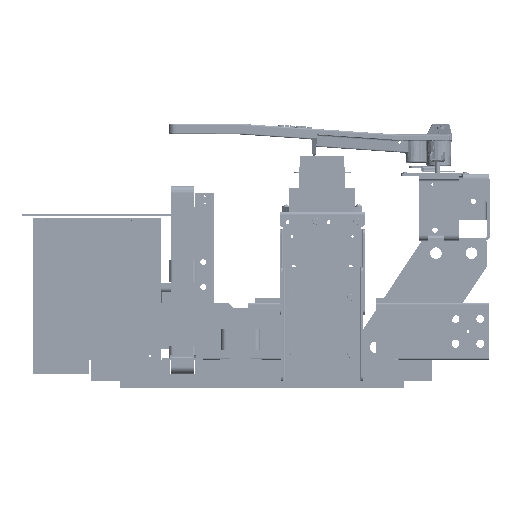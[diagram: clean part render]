
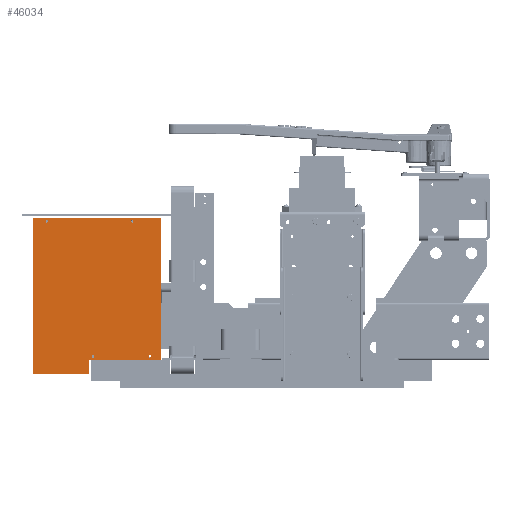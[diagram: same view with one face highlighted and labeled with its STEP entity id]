
A CAD part, left-side view. The second image highlights one B-rep face of the part: STEP entity #46034.
In plain terms, the highlighted planar face has unit normal (-1, 0, 0) as drawn and (0, 0, -1) by its records, which use the part's own axes.
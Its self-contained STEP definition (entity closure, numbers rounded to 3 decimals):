
#3080=FACE_BOUND('',#9614,.T.);
#3081=FACE_BOUND('',#9615,.T.);
#3082=FACE_BOUND('',#9616,.T.);
#3083=FACE_BOUND('',#9617,.T.);
#4429=CIRCLE('',#50694,0.097);
#4431=CIRCLE('',#50697,0.097);
#4433=CIRCLE('',#50700,0.097);
#4435=CIRCLE('',#50703,0.097);
#6633=FACE_OUTER_BOUND('',#9613,.T.);
#9613=EDGE_LOOP('',(#35114,#35115,#35116,#35117,#35118,#35119));
#9614=EDGE_LOOP('',(#35120));
#9615=EDGE_LOOP('',(#35121));
#9616=EDGE_LOOP('',(#35122));
#9617=EDGE_LOOP('',(#35123));
#13229=LINE('',#72064,#17162);
#13233=LINE('',#72072,#17166);
#13236=LINE('',#72078,#17169);
#13239=LINE('',#72084,#17172);
#13242=LINE('',#72090,#17175);
#13245=LINE('',#72095,#17178);
#17162=VECTOR('',#58535,0.394);
#17166=VECTOR('',#58541,0.394);
#17169=VECTOR('',#58546,0.394);
#17172=VECTOR('',#58551,0.394);
#17175=VECTOR('',#58556,0.394);
#17178=VECTOR('',#58561,0.394);
#21203=VERTEX_POINT('',#72040);
#21205=VERTEX_POINT('',#72046);
#21207=VERTEX_POINT('',#72052);
#21209=VERTEX_POINT('',#72058);
#21210=VERTEX_POINT('',#72062);
#21211=VERTEX_POINT('',#72063);
#21214=VERTEX_POINT('',#72071);
#21216=VERTEX_POINT('',#72077);
#21218=VERTEX_POINT('',#72083);
#21220=VERTEX_POINT('',#72089);
#26251=EDGE_CURVE('',#21203,#21203,#4429,.T.);
#26254=EDGE_CURVE('',#21205,#21205,#4431,.T.);
#26257=EDGE_CURVE('',#21207,#21207,#4433,.T.);
#26260=EDGE_CURVE('',#21209,#21209,#4435,.T.);
#26261=EDGE_CURVE('',#21210,#21211,#13229,.T.);
#26265=EDGE_CURVE('',#21211,#21214,#13233,.T.);
#26268=EDGE_CURVE('',#21214,#21216,#13236,.T.);
#26271=EDGE_CURVE('',#21216,#21218,#13239,.T.);
#26274=EDGE_CURVE('',#21218,#21220,#13242,.T.);
#26277=EDGE_CURVE('',#21220,#21210,#13245,.T.);
#35114=ORIENTED_EDGE('',*,*,#26261,.F.);
#35115=ORIENTED_EDGE('',*,*,#26277,.F.);
#35116=ORIENTED_EDGE('',*,*,#26274,.F.);
#35117=ORIENTED_EDGE('',*,*,#26271,.F.);
#35118=ORIENTED_EDGE('',*,*,#26268,.F.);
#35119=ORIENTED_EDGE('',*,*,#26265,.F.);
#35120=ORIENTED_EDGE('',*,*,#26251,.T.);
#35121=ORIENTED_EDGE('',*,*,#26254,.T.);
#35122=ORIENTED_EDGE('',*,*,#26257,.T.);
#35123=ORIENTED_EDGE('',*,*,#26260,.T.);
#44365=PLANE('',#50710);
#46034=ADVANCED_FACE('',(#6633,#3080,#3081,#3082,#3083),#44365,.F.);
#50694=AXIS2_PLACEMENT_3D('',#72042,#58510,#58511);
#50697=AXIS2_PLACEMENT_3D('',#72048,#58517,#58518);
#50700=AXIS2_PLACEMENT_3D('',#72054,#58524,#58525);
#50703=AXIS2_PLACEMENT_3D('',#72060,#58531,#58532);
#50710=AXIS2_PLACEMENT_3D('',#72097,#58563,#58564);
#58510=DIRECTION('center_axis',(0.,0.,1.));
#58511=DIRECTION('ref_axis',(-1.,0.,0.));
#58517=DIRECTION('center_axis',(0.,0.,1.));
#58518=DIRECTION('ref_axis',(-1.,0.,0.));
#58524=DIRECTION('center_axis',(0.,0.,1.));
#58525=DIRECTION('ref_axis',(-1.,0.,0.));
#58531=DIRECTION('center_axis',(0.,0.,1.));
#58532=DIRECTION('ref_axis',(-1.,0.,0.));
#58535=DIRECTION('',(0.,-1.,0.));
#58541=DIRECTION('',(1.,0.,0.));
#58546=DIRECTION('',(0.,1.,0.));
#58551=DIRECTION('',(1.,0.,0.));
#58556=DIRECTION('',(0.,1.,0.));
#58561=DIRECTION('',(-1.,0.,0.));
#58563=DIRECTION('center_axis',(0.,0.,1.));
#58564=DIRECTION('ref_axis',(1.,0.,0.));
#72040=CARTESIAN_POINT('',(9.847,4.75,-0.125));
#72042=CARTESIAN_POINT('Origin',(9.75,4.75,-0.125));
#72046=CARTESIAN_POINT('',(9.847,0.75,-0.125));
#72048=CARTESIAN_POINT('Origin',(9.75,0.75,-0.125));
#72052=CARTESIAN_POINT('',(0.347,8.,-0.125));
#72054=CARTESIAN_POINT('Origin',(0.25,8.,-0.125));
#72058=CARTESIAN_POINT('',(0.347,2.,-0.125));
#72060=CARTESIAN_POINT('Origin',(0.25,2.,-0.125));
#72062=CARTESIAN_POINT('',(0.,9.,-0.125));
#72063=CARTESIAN_POINT('',(0.,0.,-0.125));
#72064=CARTESIAN_POINT('',(0.,9.,-0.125));
#72071=CARTESIAN_POINT('',(10.,0.,-0.125));
#72072=CARTESIAN_POINT('',(0.,0.,-0.125));
#72077=CARTESIAN_POINT('',(10.,5.063,-0.125));
#72078=CARTESIAN_POINT('',(10.,0.,-0.125));
#72083=CARTESIAN_POINT('',(11.,5.063,-0.125));
#72084=CARTESIAN_POINT('',(10.,5.063,-0.125));
#72089=CARTESIAN_POINT('',(11.,9.,-0.125));
#72090=CARTESIAN_POINT('',(11.,5.063,-0.125));
#72095=CARTESIAN_POINT('',(11.,9.,-0.125));
#72097=CARTESIAN_POINT('Origin',(5.373,4.627,-0.125));
